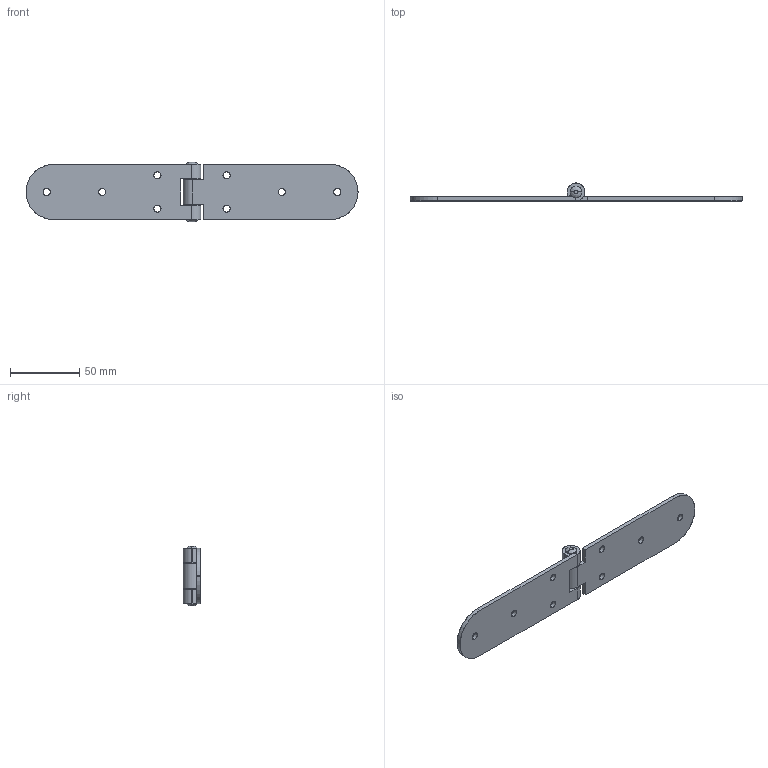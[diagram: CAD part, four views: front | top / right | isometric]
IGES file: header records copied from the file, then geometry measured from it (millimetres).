
Start section: SolidWorks IGES file using analytic representation for surfaces
Global section: file name: C:\Users\cbrechard.SAV\Desktop\CC 434\CC 434.IGS; native system: SolidWorks 2013; preprocessor: SolidWorks 2013; author: cbrechard; date: 150209.110150; units: millimetre
Bounding box: 240 x 13 x 43 mm (x, y, z)
Surface area: 23318.8 mm2 (no closed solid volume)
Topology: 0 solids, 0 shells, 70 faces, 1424 edges, 1424 vertices
Faces by surface type: revolution 38, bspline 32
